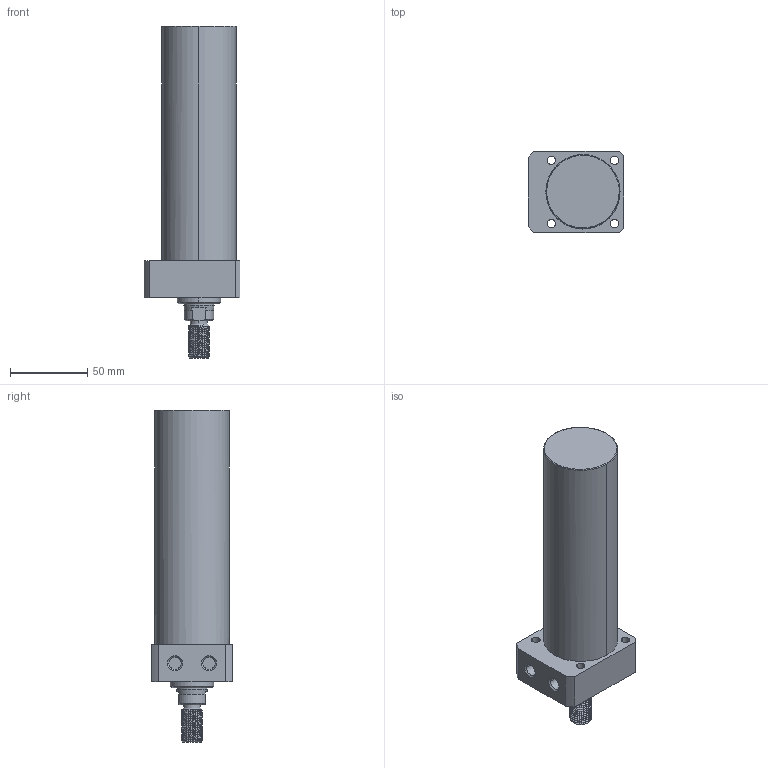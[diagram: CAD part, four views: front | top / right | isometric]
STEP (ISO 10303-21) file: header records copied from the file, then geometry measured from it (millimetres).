
FILE_DESCRIPTION((' '),'2;1');
FILE_NAME( 'TLLR-048CT-125.STEP.stp', '2025-10-24T16:34:37', (' '), ('--- Datakit www.datakit.com---'), ' Datakit CrossCadWare V2024.1 Dec 21 2023', 'Mastercam 2025', ' ');
FILE_SCHEMA(('AUTOMOTIVE_DESIGN { 1 0 10303 214 1 1 1 1 }'));
Length unit declared in the file: millimetre
Products named in the file (1): TLLR-048CT-125
Bounding box: 62 x 53 x 215 mm (x, y, z)
Volume: 358086.6 mm3; surface area: 39491.9 mm2
Topology: 1 solids, 1 shells, 96 faces, 329 edges, 243 vertices
Faces by surface type: cylinder 56, plane 20, cone 16, torus 2, bspline 2
Entity records: 9986 total; most frequent: CARTESIAN_POINT 7090, ORIENTED_EDGE 658, DIRECTION 499, EDGE_CURVE 329, VERTEX_POINT 243, AXIS2_PLACEMENT_3D 204, B_SPLINE_CURVE_WITH_KNOTS 129, EDGE_LOOP 112
